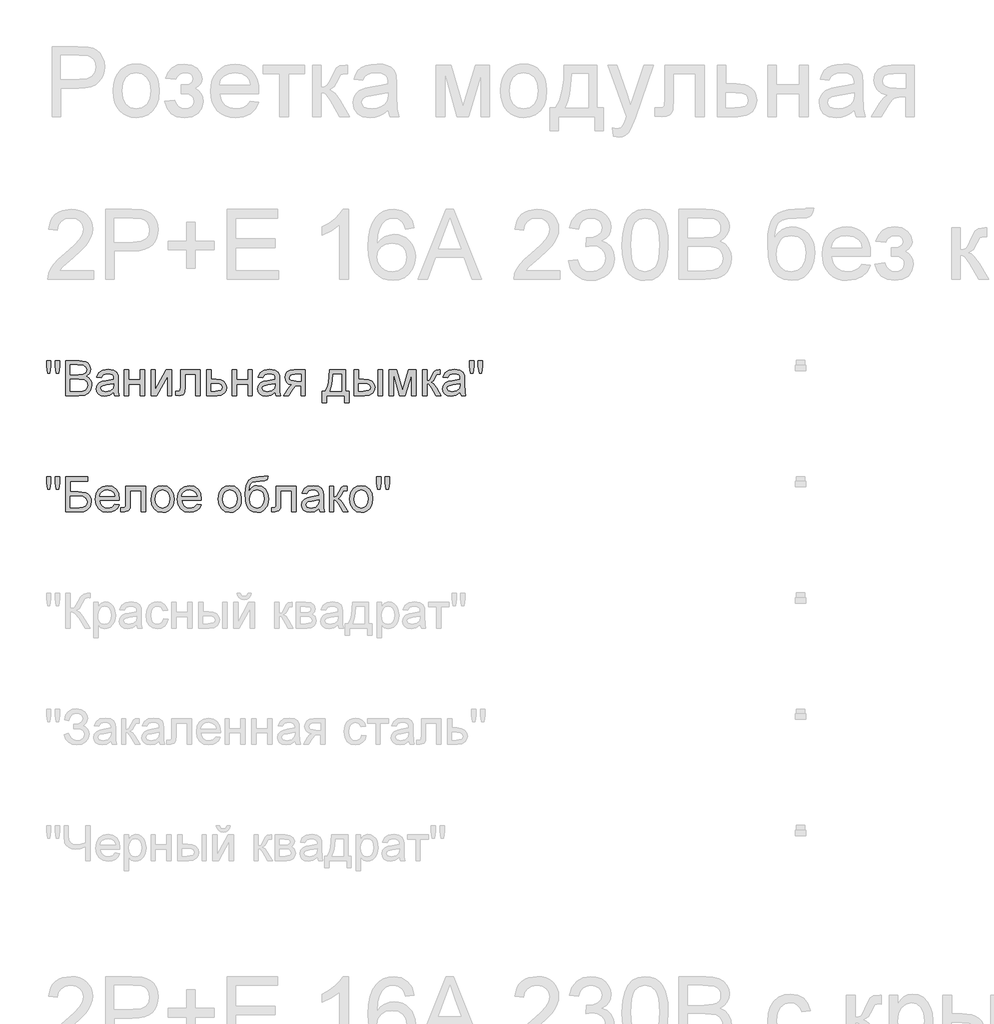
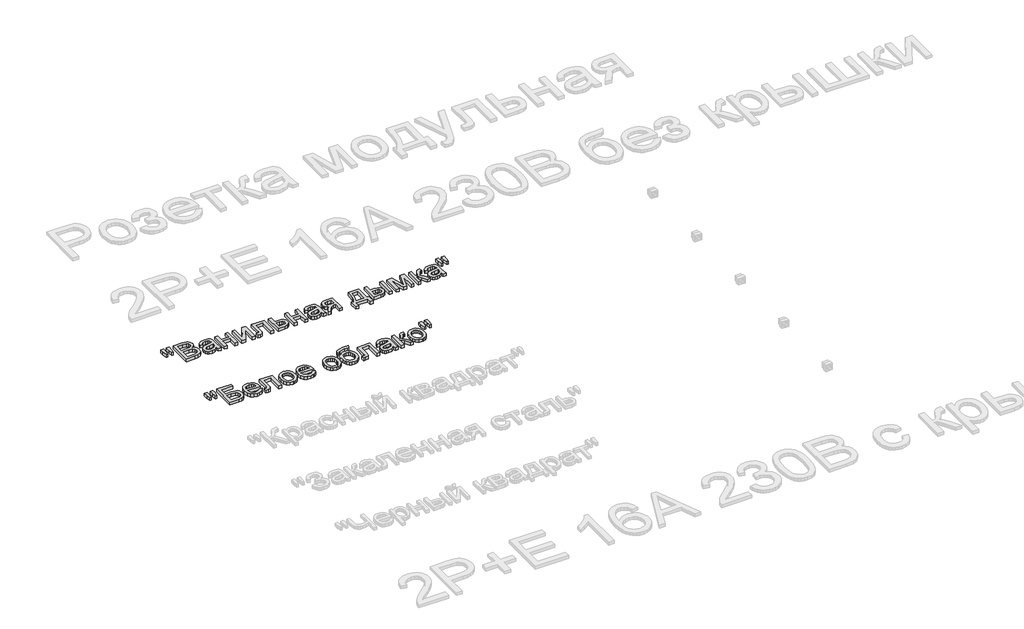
# One storey, part 49 of 168: 2 proxies.
"""IFC4 building model written with IfcOpenShell, lengths in millimetres."""

from ifc_helpers import new_model, si_unit, origin, origin_with_axes, place, context, project, spatial, polyline, outline, extrude, element, save

model = new_model("IFC4")

# Units and contexts
model_context = context("Model", 3, world=origin())
ifc_project = project(units=[si_unit("LENGTHUNIT", "METRE", prefix="MILLI")], contexts=[model_context])

# Site, building, storey
site = spatial("IfcSite", under=ifc_project)
building = spatial("IfcBuilding", under=site)
storey = spatial("IfcBuildingStorey", under=building, Name="Этаж 01", Elevation=0.0)

# Proxies
placement = place(None, origin())
element("IfcBuildingElementProxy", 1, Name="150", ObjectType="150", at=placement, inside=storey, context=model_context, shape_type="SweptSolid", body=[
    extrude(outline(polyline([(41980.1485789, -32070.3300622), (41975.550054, -32041.2305964), (41975.550054, -32016.1778325), (41994.3856121, -32016.1778325), (41994.3856121, -32041.2305964), (41990.2653338, -32070.3300622), (41980.1485789, -32070.3300622)])), origin_with_axes(), (0.0, 0.0, 1.0), 20.0),
    extrude(outline(polyline([(42017.7093306, -32070.3300622), (42013.2211703, -32041.2305964), (42013.2211703, -32016.1778325), (42032.0567284, -32016.1778325), (42032.0567284, -32041.2305964), (42027.6421445, -32070.3300622), (42017.7093306, -32070.3300622)])), origin_with_axes(), (0.0, 0.0, 1.0), 20.0),
    extrude(outline(polyline([(42057.9556209, -32166.8622977), (42057.9556209, -32016.1778325), (42115.4555767, -32016.1778325), (42143.6169435, -32020.6108106), (42153.0807078, -32026.2348066), (42160.2452096, -32034.2408385), (42166.2600803, -32053.517855), (42161.2017028, -32071.1210085), (42145.9162059, -32084.4567308), (42156.5893823, -32090.030143), (42164.4758526, -32098.509823), (42169.3456905, -32109.3347507), (42170.9689698, -32121.9439061), (42166.5359918, -32142.19581), (42155.5547142, -32156.6167842), (42139.1655713, -32164.2687297), (42115.0141183, -32166.8622977), (42057.9556209, -32166.8622977)]), holes=[polyline([(42076.791179, -32077.3933965), (42111.1881456, -32077.3933965), (42131.2745025, -32075.7747157), (42143.3594261, -32068.8033519), (42147.4245221, -32056.5344874), (42143.6353376, -32044.2472287), (42132.7828187, -32036.9815593), (42108.5761834, -32035.0133907), (42076.791179, -32035.0133907), (42076.791179, -32077.3933965)]), polyline([(42076.791179, -32148.0267396), (42115.4187885, -32148.0267396), (42129.3983043, -32147.2909756), (42141.2257105, -32143.1890913), (42149.061597, -32134.819776), (42152.1334117, -32122.1278471), (42148.5281681, -32107.4861437), (42136.8479148, -32098.7489463), (42113.5793786, -32096.2289547), (42076.791179, -32096.2289547), (42076.791179, -32148.0267396)])]), origin_with_axes(), (0.0, 0.0, 1.0), 20.0),
    extrude(outline(polyline([(42265.1467606, -32152.7356291), (42246.8814195, -32165.5011344), (42226.7030921, -32169.2167425), (42210.9623412, -32166.9818594), (42199.3510657, -32160.27721), (42192.1911624, -32150.0960758), (42189.804528, -32137.4317381), (42193.4097715, -32122.5325173), (42202.8827329, -32111.7167867), (42216.0713024, -32105.5363691), (42232.3684748, -32102.7036778), (42265.036396, -32096.2289547), (42265.1467606, -32092.0350999), (42263.8499765, -32083.6289963), (42259.9596244, -32078.1291605), (42251.2592153, -32074.0456704), (42239.1375035, -32072.684507), (42220.0812162, -32076.3081446), (42210.9945309, -32089.1656204), (42192.1589727, -32086.8111756), (42200.3075589, -32068.4170758), (42216.7150959, -32057.6381334), (42241.5655247, -32053.8489488), (42264.3926025, -32057.196675), (42277.2868664, -32065.6027786), (42283.0626137, -32078.3866779), (42283.9823187, -32094.8677913), (42283.9823187, -32118.3018744), (42284.9388119, -32151.0249778), (42288.6912083, -32166.8622977), (42269.8556501, -32166.8622977), (42265.1467606, -32152.7356291)]), holes=[polyline([(42265.1467606, -32115.0645128), (42234.7597078, -32120.8402601), (42218.5545059, -32123.8936807), (42211.2152601, -32128.8600876), (42208.6400861, -32136.1073629), (42214.2502865, -32146.2976942), (42230.7130058, -32150.3811843), (42249.7692932, -32145.8746299), (42262.0565518, -32134.9669288), (42265.036396, -32120.3988017), (42265.1467606, -32115.0645128)])]), origin_with_axes(), (0.0, 0.0, 1.0), 20.0),
    extrude(outline(polyline([(42309.8812112, -32056.2033936), (42328.7167693, -32056.2033936), (42328.7167693, -32098.5833994), (42378.1601095, -32098.5833994), (42378.1601095, -32056.2033936), (42396.9956676, -32056.2033936), (42396.9956676, -32166.8622977), (42378.1601095, -32166.8622977), (42378.1601095, -32117.4189576), (42328.7167693, -32117.4189576), (42328.7167693, -32166.8622977), (42309.8812112, -32166.8622977), (42309.8812112, -32056.2033936)])), origin_with_axes(), (0.0, 0.0, 1.0), 20.0),
    extrude(outline(polyline([(42425.2490049, -32056.2033936), (42444.084563, -32056.2033936), (42444.084563, -32140.5955233), (42490.364118, -32056.2033936), (42514.7179061, -32056.2033936), (42514.7179061, -32166.8622977), (42495.8823479, -32166.8622977), (42495.8823479, -32082.9852028), (42449.8970985, -32166.8622977), (42425.2490049, -32166.8622977), (42425.2490049, -32056.2033936)])), origin_with_axes(), (0.0, 0.0, 1.0), 20.0),
    extrude(outline(polyline([(42552.3890224, -32056.2033936), (42637.1490341, -32056.2033936), (42637.1490341, -32166.7519331), (42618.3134759, -32166.7519331), (42618.3134759, -32075.0389517), (42571.2245806, -32075.0389517), (42571.2245806, -32127.830018), (42569.9553877, -32152.1838061), (42562.9840239, -32162.4661079), (42546.5029105, -32166.8622977), (42531.1990195, -32165.9058045), (42531.1990195, -32148.0267396), (42539.6235172, -32148.0267396), (42548.1399854, -32146.8679113), (42551.5428938, -32143.1890913), (42552.3890224, -32126.7631603), (42552.3890224, -32056.2033936)])), origin_with_axes(), (0.0, 0.0, 1.0), 20.0),
    extrude(outline(polyline([(42665.4023713, -32056.2033936), (42684.2379295, -32056.2033936), (42684.2379295, -32096.2289547), (42705.9429672, -32096.2289547), (42724.7601312, -32098.587998), (42738.6844648, -32105.6651278), (42747.2929034, -32116.8901272), (42750.162383, -32131.692779), (42747.7205663, -32145.1710556), (42740.395116, -32156.5432078), (42727.6985887, -32164.2825252), (42709.1435405, -32166.8622977), (42665.4023713, -32166.8622977), (42665.4023713, -32056.2033936)]), holes=[polyline([(42684.2379295, -32148.0267396), (42701.8226888, -32148.0267396), (42724.539402, -32144.0720081), (42729.6299692, -32139.0090322), (42731.3268249, -32131.7295672), (42726.3052356, -32120.1412843), (42718.2348244, -32116.3337057), (42704.066769, -32115.0645128), (42684.2379295, -32115.0645128), (42684.2379295, -32148.0267396)])]), origin_with_axes(), (0.0, 0.0, 1.0), 20.0),
    extrude(outline(polyline([(42773.7068307, -32056.2033936), (42792.5423889, -32056.2033936), (42792.5423889, -32098.5833994), (42841.985729, -32098.5833994), (42841.985729, -32056.2033936), (42860.8212872, -32056.2033936), (42860.8212872, -32166.8622977), (42841.985729, -32166.8622977), (42841.985729, -32117.4189576), (42792.5423889, -32117.4189576), (42792.5423889, -32166.8622977), (42773.7068307, -32166.8622977), (42773.7068307, -32056.2033936)])), origin_with_axes(), (0.0, 0.0, 1.0), 20.0),
    extrude(outline(polyline([(42959.7079675, -32152.7356291), (42941.4426264, -32165.5011344), (42921.264299, -32169.2167425), (42905.5235481, -32166.9818594), (42893.9122726, -32160.27721), (42886.7523693, -32150.0960758), (42884.3657349, -32137.4317381), (42887.9709784, -32122.5325173), (42897.4439398, -32111.7167867), (42910.6325093, -32105.5363691), (42926.9296817, -32102.7036778), (42959.5976029, -32096.2289547), (42959.7079675, -32092.0350999), (42958.4111834, -32083.6289963), (42954.5208313, -32078.1291605), (42945.8204221, -32074.0456704), (42933.6987104, -32072.684507), (42914.6424231, -32076.3081446), (42905.5557378, -32089.1656204), (42886.7201796, -32086.8111756), (42894.8687658, -32068.4170758), (42911.2763028, -32057.6381334), (42936.1267316, -32053.8489488), (42958.9538094, -32057.196675), (42971.8480733, -32065.6027786), (42977.6238206, -32078.3866779), (42978.5435256, -32094.8677913), (42978.5435256, -32118.3018744), (42979.5000188, -32151.0249778), (42983.2524152, -32166.8622977), (42964.416857, -32166.8622977), (42959.7079675, -32152.7356291)]), holes=[polyline([(42959.7079675, -32115.0645128), (42929.3209147, -32120.8402601), (42913.1157128, -32123.8936807), (42905.776467, -32128.8600876), (42903.201293, -32136.1073629), (42908.8114934, -32146.2976942), (42925.2742127, -32150.3811843), (42944.3305001, -32145.8746299), (42956.6177587, -32134.9669288), (42959.5976029, -32120.3988017), (42959.7079675, -32115.0645128)])]), origin_with_axes(), (0.0, 0.0, 1.0), 20.0),
    extrude(outline(polyline([(43089.2024298, -32056.2033936), (43089.2024298, -32166.8622977), (43070.3668716, -32166.8622977), (43070.3668716, -32124.4822919), (43060.1029639, -32124.4822919), (43046.1234481, -32126.8735249), (43032.9900609, -32142.949968), (43017.9804755, -32166.8622977), (42996.2018614, -32166.8622977), (43015.1109959, -32136.6223977), (43023.4619172, -32125.7698789), (43031.1506509, -32120.9506247), (43018.2747811, -32117.0050903), (43009.224884, -32109.5094947), (43003.872201, -32099.5398926), (43002.0879733, -32088.172339), (43004.5251915, -32075.278075), (43011.8368462, -32065.0693497), (43023.7654199, -32058.4198826), (43040.0533952, -32056.2033936), (43089.2024298, -32056.2033936)]), holes=[polyline([(43070.3668716, -32075.0389517), (43045.5348369, -32075.0389517), (43032.7095509, -32076.1288021), (43025.4300859, -32079.3983534), (43020.9235315, -32089.6070787), (43022.583599, -32096.7853762), (43027.5638015, -32101.7655787), (43051.0898551, -32105.6467337), (43070.3668716, -32105.6467337), (43070.3668716, -32075.0389517)])]), origin_with_axes(), (0.0, 0.0, 1.0), 20.0),
    extrude(outline(polyline([(43192.7979996, -32056.2033936), (43263.4313427, -32056.2033936), (43263.4313427, -32148.0267396), (43277.5580113, -32148.0267396), (43277.5580113, -32197.4700797), (43258.7224531, -32197.4700797), (43258.7224531, -32166.8622977), (43181.0257758, -32166.8622977), (43181.0257758, -32197.4700797), (43162.1902176, -32197.4700797), (43162.1902176, -32148.0267396), (43173.9624415, -32148.0267396), (43182.5202964, -32132.5619002), (43188.5121744, -32112.1030628), (43192.7979996, -32056.2033936)]), holes=[polyline([(43209.279113, -32075.0389517), (43204.864529, -32117.9523865), (43195.1524444, -32148.0267396), (43244.5957845, -32148.0267396), (43244.5957845, -32075.0389517), (43209.279113, -32075.0389517)])]), origin_with_axes(), (0.0, 0.0, 1.0), 20.0),
    extrude(outline(polyline([(43402.3435841, -32056.2033936), (43421.1791422, -32056.2033936), (43421.1791422, -32166.8622977), (43402.3435841, -32166.8622977), (43402.3435841, -32056.2033936)])), origin_with_axes(), (0.0, 0.0, 1.0), 20.0),
    extrude(outline(polyline([(43298.7480142, -32056.2033936), (43317.5835724, -32056.2033936), (43317.5835724, -32096.2289547), (43340.8705027, -32096.2289547), (43360.9982463, -32098.587998), (43375.9112627, -32105.6651278), (43385.1405023, -32116.8901272), (43388.2169154, -32131.692779), (43385.637143, -32145.1710556), (43377.8978255, -32156.5432078), (43364.4931253, -32164.2825252), (43344.9172046, -32166.8622977), (43298.7480142, -32166.8622977), (43298.7480142, -32056.2033936)]), holes=[polyline([(43317.5835724, -32148.0267396), (43336.9341653, -32148.0267396), (43361.9133528, -32144.0720081), (43367.5143562, -32139.0090322), (43369.3813573, -32131.7295672), (43363.8447333, -32120.1412843), (43354.9649816, -32116.3337057), (43339.3989747, -32115.0645128), (43317.5835724, -32115.0645128), (43317.5835724, -32148.0267396)])]), origin_with_axes(), (0.0, 0.0, 1.0), 20.0),
    extrude(outline(polyline([(43449.4324794, -32056.2033936), (43481.8428832, -32056.2033936), (43506.8220707, -32144.789378), (43533.7510327, -32056.2033936), (43564.8002731, -32056.2033936), (43564.8002731, -32166.8622977), (43545.964715, -32166.8622977), (43545.964715, -32077.7612785), (43518.8886001, -32166.8622977), (43494.1669301, -32166.8622977), (43468.2680376, -32073.4938474), (43468.2680376, -32166.8622977), (43449.4324794, -32166.8622977), (43449.4324794, -32056.2033936)])), origin_with_axes(), (0.0, 0.0, 1.0), 20.0),
    extrude(outline(polyline([(43593.0536104, -32056.2033936), (43611.8891685, -32056.2033936), (43611.8891685, -32103.292289), (43624.5075209, -32099.9077746), (43634.845005, -32080.1892997), (43643.4350496, -32063.1747574), (43651.0134187, -32057.6381334), (43664.7905994, -32056.2033936), (43668.395843, -32056.2033936), (43668.395843, -32075.1493163), (43663.3190714, -32075.0389517), (43654.1220216, -32077.0255145), (43647.6472984, -32089.4231377), (43640.0505352, -32102.8324365), (43629.4003515, -32109.3991301), (43641.2829399, -32116.7291788), (43652.9447992, -32132.1710256), (43673.1047325, -32166.8622977), (43651.6940004, -32166.8622977), (43631.9387372, -32132.9067896), (43622.0059234, -32118.5409977), (43611.8891685, -32115.0645128), (43611.8891685, -32166.8622977), (43593.0536104, -32166.8622977), (43593.0536104, -32056.2033936)])), origin_with_axes(), (0.0, 0.0, 1.0), 20.0),
    extrude(outline(polyline([(43755.5102994, -32152.7356291), (43737.2449584, -32165.5011344), (43717.0666309, -32169.2167425), (43701.3258801, -32166.9818594), (43689.7146046, -32160.27721), (43682.5547013, -32150.0960758), (43680.1680668, -32137.4317381), (43683.7733104, -32122.5325173), (43693.2462717, -32111.7167867), (43706.4348413, -32105.5363691), (43722.7320137, -32102.7036778), (43755.3999348, -32096.2289547), (43755.5102994, -32092.0350999), (43754.2135154, -32083.6289963), (43750.3231633, -32078.1291605), (43741.6227541, -32074.0456704), (43729.5010424, -32072.684507), (43710.444755, -32076.3081446), (43701.3580697, -32089.1656204), (43682.5225116, -32086.8111756), (43690.6710978, -32068.4170758), (43707.0786348, -32057.6381334), (43731.9290635, -32053.8489488), (43754.7561413, -32057.196675), (43767.6504053, -32065.6027786), (43773.4261526, -32078.3866779), (43774.3458576, -32094.8677913), (43774.3458576, -32118.3018744), (43775.3023508, -32151.0249778), (43779.0547471, -32166.8622977), (43760.219189, -32166.8622977), (43755.5102994, -32152.7356291)]), holes=[polyline([(43755.5102994, -32115.0645128), (43725.1232466, -32120.8402601), (43708.9180447, -32123.8936807), (43701.5787989, -32128.8600876), (43699.003625, -32136.1073629), (43704.6138254, -32146.2976942), (43721.0765447, -32150.3811843), (43740.132832, -32145.8746299), (43752.4200907, -32134.9669288), (43755.3999348, -32120.3988017), (43755.5102994, -32115.0645128)])]), origin_with_axes(), (0.0, 0.0, 1.0), 20.0),
    extrude(outline(polyline([(43800.1343854, -32070.3300622), (43795.5358605, -32041.2305964), (43795.5358605, -32016.1778325), (43814.3714187, -32016.1778325), (43814.3714187, -32041.2305964), (43810.2511403, -32070.3300622), (43800.1343854, -32070.3300622)])), origin_with_axes(), (0.0, 0.0, 1.0), 20.0),
    extrude(outline(polyline([(43837.6951372, -32070.3300622), (43833.2069768, -32041.2305964), (43833.2069768, -32016.1778325), (43852.042535, -32016.1778325), (43852.042535, -32041.2305964), (43847.627951, -32070.3300622), (43837.6951372, -32070.3300622)])), origin_with_axes(), (0.0, 0.0, 1.0), 20.0),
])
element("IfcBuildingElementProxy", 2, Name="150", ObjectType="150", at=placement, inside=storey, context=model_context, shape_type="SweptSolid", body=[
    extrude(outline(polyline([(41980.1485789, -32570.3300622), (41975.550054, -32541.2305964), (41975.550054, -32516.1778325), (41994.3856121, -32516.1778325), (41994.3856121, -32541.2305964), (41990.2653338, -32570.3300622), (41980.1485789, -32570.3300622)])), origin_with_axes(), (0.0, 0.0, 1.0), 20.0),
    extrude(outline(polyline([(42017.7093306, -32570.3300622), (42013.2211703, -32541.2305964), (42013.2211703, -32516.1778325), (42032.0567284, -32516.1778325), (42032.0567284, -32541.2305964), (42027.6421445, -32570.3300622), (42017.7093306, -32570.3300622)])), origin_with_axes(), (0.0, 0.0, 1.0), 20.0),
    extrude(outline(polyline([(42057.9556209, -32516.1778325), (42152.1334117, -32516.1778325), (42152.1334117, -32535.0133907), (42076.791179, -32535.0133907), (42076.791179, -32579.7478413), (42112.0710624, -32579.7478413), (42143.157091, -32583.573814), (42153.5589544, -32589.101241), (42161.6615553, -32598.0315764), (42166.8762826, -32609.5278888), (42168.614525, -32622.7532465), (42163.6665122, -32644.2191609), (42148.8960501, -32660.5347274), (42135.6247071, -32665.2804052), (42115.4555767, -32666.8622977), (42057.9556209, -32666.8622977), (42057.9556209, -32516.1778325)]), holes=[polyline([(42076.791179, -32648.0267396), (42117.1478339, -32648.0267396), (42131.4124583, -32646.4724382), (42141.6119866, -32641.8095339), (42147.7372218, -32634.0380267), (42149.7789669, -32623.1579167), (42145.1068655, -32608.4058487), (42132.102237, -32600.533174), (42103.7201411, -32598.5833994), (42076.791179, -32598.5833994), (42076.791179, -32648.0267396)])]), origin_with_axes(), (0.0, 0.0, 1.0), 20.0),
    extrude(outline(polyline([(42269.6349209, -32633.900071), (42288.1025971, -32636.2545157), (42281.4485315, -32650.1696522), (42270.8305374, -32660.5715156), (42256.4877381, -32667.0554358), (42238.6592569, -32669.2167425), (42216.5587461, -32665.4873388), (42199.5534008, -32654.2991276), (42188.710079, -32636.3786759), (42185.0956384, -32612.4525506), (42188.7468672, -32587.7216835), (42199.7005536, -32569.2264162), (42216.4759726, -32557.6933157), (42237.5923991, -32553.8489488), (42258.0512366, -32557.6841186), (42274.3989927, -32569.189628), (42285.1181544, -32587.6481071), (42288.6912083, -32612.342186), (42288.5808437, -32617.4189576), (42203.9311966, -32617.4189576), (42207.1915508, -32631.518035), (42214.7653213, -32641.8831103), (42225.6960151, -32648.2566658), (42239.0271389, -32650.3811843), (42257.4948151, -32646.444847), (42269.6349209, -32633.900071)]), holes=[polyline([(42203.9311966, -32598.5833994), (42269.8556501, -32598.5833994), (42267.3080673, -32588.6321915), (42262.3140692, -32581.5136749), (42251.3327917, -32574.8917989), (42237.5188227, -32572.684507), (42224.8222954, -32574.445742), (42214.3238629, -32579.7294472), (42207.0260039, -32587.9654053), (42203.9311966, -32598.5833994)])]), origin_with_axes(), (0.0, 0.0, 1.0), 20.0),
    extrude(outline(polyline([(42316.9445455, -32556.2033936), (42401.7045572, -32556.2033936), (42401.7045572, -32666.7519331), (42382.868999, -32666.7519331), (42382.868999, -32575.0389517), (42335.7801036, -32575.0389517), (42335.7801036, -32627.830018), (42334.5109108, -32652.1838061), (42327.539547, -32662.4661079), (42311.0584336, -32666.8622977), (42295.7545426, -32665.9058045), (42295.7545426, -32648.0267396), (42304.1790403, -32648.0267396), (42312.6955084, -32646.8679113), (42316.0984169, -32643.1890913), (42316.9445455, -32626.7631603), (42316.9445455, -32556.2033936)])), origin_with_axes(), (0.0, 0.0, 1.0), 20.0),
    extrude(outline(polyline([(42425.2490049, -32611.5328457), (42429.323298, -32584.852204), (42441.5461773, -32566.0994193), (42456.6477332, -32556.9115664), (42474.7291332, -32553.8489488), (42494.516586, -32557.5783525), (42510.3217163, -32568.7665637), (42520.6821929, -32586.5306656), (42524.1356852, -32609.9877413), (42522.6089749, -32629.0164375), (42518.0288441, -32643.501791), (42510.5286499, -32654.3497114), (42500.2417496, -32662.4661079), (42488.0234688, -32667.5290839), (42474.7291332, -32669.2167425), (42454.7025571, -32665.5011344), (42438.915821, -32654.3543099), (42428.6657089, -32636.2177275), (42425.2490049, -32611.5328457)]), holes=[polyline([(42444.084563, -32611.4960575), (42446.2642638, -32628.5427894), (42452.8033663, -32640.6874938), (42462.6442097, -32647.9577617), (42474.7291332, -32650.3811843), (42486.7588745, -32647.9439661), (42496.5813237, -32640.6323115), (42503.1204262, -32628.3266587), (42505.300127, -32610.9074463), (42503.1066306, -32594.357355), (42496.5261414, -32582.3781975), (42486.6898966, -32575.1079296), (42474.7291332, -32572.684507), (42462.6442097, -32575.0987326), (42452.8033663, -32582.3414093), (42446.2642638, -32594.4585226), (42444.084563, -32611.4960575)])]), origin_with_axes(), (0.0, 0.0, 1.0), 20.0),
    extrude(outline(polyline([(42622.8016363, -32633.900071), (42641.2693124, -32636.2545157), (42634.6152469, -32650.1696522), (42623.9972528, -32660.5715156), (42609.6544535, -32667.0554358), (42591.8259723, -32669.2167425), (42569.7254614, -32665.4873388), (42552.7201162, -32654.2991276), (42541.8767944, -32636.3786759), (42538.2623538, -32612.4525506), (42541.9135826, -32587.7216835), (42552.867269, -32569.2264162), (42569.642688, -32557.6933157), (42590.7591145, -32553.8489488), (42611.217952, -32557.6841186), (42627.5657081, -32569.189628), (42638.2848698, -32587.6481071), (42641.8579236, -32612.342186), (42641.747559, -32617.4189576), (42557.0979119, -32617.4189576), (42560.3582661, -32631.518035), (42567.9320367, -32641.8831103), (42578.8627305, -32648.2566658), (42592.1938543, -32650.3811843), (42610.6615304, -32646.444847), (42622.8016363, -32633.900071)]), holes=[polyline([(42557.0979119, -32598.5833994), (42623.0223655, -32598.5833994), (42620.4747827, -32588.6321915), (42615.4807846, -32581.5136749), (42604.499507, -32574.8917989), (42590.6855381, -32572.684507), (42577.9890107, -32574.445742), (42567.4905783, -32579.7294472), (42560.1927192, -32587.9654053), (42557.0979119, -32598.5833994)])]), origin_with_axes(), (0.0, 0.0, 1.0), 20.0),
    extrude(outline(polyline([(42714.8457115, -32611.5328457), (42718.9200046, -32584.852204), (42731.1428839, -32566.0994193), (42746.2444398, -32556.9115664), (42764.3258398, -32553.8489488), (42784.1132926, -32557.5783525), (42799.9184229, -32568.7665637), (42810.2788995, -32586.5306656), (42813.7323918, -32609.9877413), (42812.2056815, -32629.0164375), (42807.6255507, -32643.501791), (42800.1253565, -32654.3497114), (42789.8384562, -32662.4661079), (42777.6201754, -32667.5290839), (42764.3258398, -32669.2167425), (42744.2992637, -32665.5011344), (42728.5125276, -32654.3543099), (42718.2624155, -32636.2177275), (42714.8457115, -32611.5328457)]), holes=[polyline([(42733.6812696, -32611.4960575), (42735.8609704, -32628.5427894), (42742.4000729, -32640.6874938), (42752.2409163, -32647.9577617), (42764.3258398, -32650.3811843), (42776.3555811, -32647.9439661), (42786.1780303, -32640.6323115), (42792.7171328, -32628.3266587), (42794.8968336, -32610.9074463), (42792.7033372, -32594.357355), (42786.122848, -32582.3781975), (42776.2866032, -32575.1079296), (42764.3258398, -32572.684507), (42752.2409163, -32575.0987326), (42742.4000729, -32582.3414093), (42735.8609704, -32594.4585226), (42733.6812696, -32611.4960575)])]), origin_with_axes(), (0.0, 0.0, 1.0), 20.0),
    extrude(outline(polyline([(42912.6190721, -32513.8233877), (42929.1001855, -32513.8233877), (42924.2441431, -32528.5202734), (42914.6424231, -32533.8361683), (42891.576222, -32535.0133907), (42860.5085875, -32539.3543982), (42853.3808738, -32545.0013868), (42848.5892108, -32553.2603376), (42844.560903, -32577.8716431), (42860.8764695, -32559.8454253), (42870.7954878, -32555.3480679), (42881.9009255, -32553.8489488), (42901.4998388, -32557.661126), (42917.401538, -32569.0976575), (42927.9413572, -32587.0365033), (42931.4546302, -32610.3556233), (42929.7117893, -32628.3358558), (42924.4832664, -32642.766027), (42907.9469707, -32662.3189551), (42896.6529935, -32667.4922957), (42881.9009255, -32669.2167425), (42864.9001788, -32666.995655), (42852.1576662, -32660.3323923), (42842.7812738, -32650.2064404), (42835.8788879, -32637.597285), (42831.6298508, -32618.6099755), (42830.2135052, -32589.3495614), (42833.786559, -32553.2097538), (42844.5057207, -32531.1690238), (42862.6377045, -32519.9256303), (42888.449225, -32516.1778325), (42909.4184987, -32515.7547682), (42912.6190721, -32513.8233877)]), holes=[polyline([(42912.6190721, -32609.7670121), (42910.577327, -32594.9459662), (42904.4520918, -32583.0771733), (42894.6112484, -32575.2826736), (42881.4226789, -32572.684507), (42867.6730893, -32575.4298264), (42857.473561, -32583.6657845), (42851.1551877, -32596.4910706), (42849.0490633, -32613.0043736), (42851.3759169, -32629.011839), (42858.3564778, -32640.7610702), (42868.7491442, -32647.9761558), (42881.3123143, -32650.3811843), (42893.9398638, -32647.5990768), (42903.937057, -32639.252754), (42910.4485683, -32626.3171033), (42912.6190721, -32609.7670121)])]), origin_with_axes(), (0.0, 0.0, 1.0), 20.0),
    extrude(outline(polyline([(42964.416857, -32556.2033936), (43049.1768687, -32556.2033936), (43049.1768687, -32666.7519331), (43030.3413105, -32666.7519331), (43030.3413105, -32575.0389517), (42983.2524152, -32575.0389517), (42983.2524152, -32627.830018), (42981.9832223, -32652.1838061), (42975.0118585, -32662.4661079), (42958.5307451, -32666.8622977), (42943.2268541, -32665.9058045), (42943.2268541, -32648.0267396), (42951.6513518, -32648.0267396), (42960.16782, -32646.8679113), (42963.5707284, -32643.1890913), (42964.416857, -32626.7631603), (42964.416857, -32556.2033936)])), origin_with_axes(), (0.0, 0.0, 1.0), 20.0),
    extrude(outline(polyline([(43148.063549, -32652.7356291), (43129.7982079, -32665.5011344), (43109.6198805, -32669.2167425), (43093.8791296, -32666.9818594), (43082.2678542, -32660.27721), (43075.1079508, -32650.0960758), (43072.7213164, -32637.4317381), (43076.3265599, -32622.5325173), (43085.7995213, -32611.7167867), (43098.9880908, -32605.5363691), (43115.2852632, -32602.7036778), (43147.9531844, -32596.2289547), (43148.063549, -32592.0350999), (43146.766765, -32583.6289963), (43142.8764129, -32578.1291605), (43134.1760037, -32574.0456704), (43122.0542919, -32572.684507), (43102.9980046, -32576.3081446), (43093.9113193, -32589.1656204), (43075.0757612, -32586.8111756), (43083.2243473, -32568.4170758), (43099.6318843, -32557.6381334), (43124.4823131, -32553.8489488), (43147.3093909, -32557.196675), (43160.2036548, -32565.6027786), (43165.9794022, -32578.3866779), (43166.8991071, -32594.8677913), (43166.8991071, -32618.3018744), (43167.8556003, -32651.0249778), (43171.6079967, -32666.8622977), (43152.7724385, -32666.8622977), (43148.063549, -32652.7356291)]), holes=[polyline([(43148.063549, -32615.0645128), (43117.6764962, -32620.8402601), (43101.4712943, -32623.8936807), (43094.1320485, -32628.8600876), (43091.5568745, -32636.1073629), (43097.167075, -32646.2976942), (43113.6297942, -32650.3811843), (43132.6860816, -32645.8746299), (43144.9733402, -32634.9669288), (43147.9531844, -32620.3988017), (43148.063549, -32615.0645128)])]), origin_with_axes(), (0.0, 0.0, 1.0), 20.0),
    extrude(outline(polyline([(43192.7979996, -32556.2033936), (43211.6335578, -32556.2033936), (43211.6335578, -32603.292289), (43224.2519102, -32599.9077746), (43234.5893943, -32580.1892997), (43243.1794388, -32563.1747574), (43250.7578079, -32557.6381334), (43264.5349887, -32556.2033936), (43268.1402322, -32556.2033936), (43268.1402322, -32575.1493163), (43263.0634607, -32575.0389517), (43253.8664108, -32577.0255145), (43247.3916877, -32589.4231377), (43239.7949245, -32602.8324365), (43229.1447407, -32609.3991301), (43241.0273292, -32616.7291788), (43252.6891884, -32632.1710256), (43272.8491218, -32666.8622977), (43251.4383896, -32666.8622977), (43231.6831265, -32632.9067896), (43221.7503126, -32618.5409977), (43211.6335578, -32615.0645128), (43211.6335578, -32666.8622977), (43192.7979996, -32666.8622977), (43192.7979996, -32556.2033936)])), origin_with_axes(), (0.0, 0.0, 1.0), 20.0),
    extrude(outline(polyline([(43279.9124561, -32611.5328457), (43283.9867492, -32584.852204), (43296.2096285, -32566.0994193), (43311.3111844, -32556.9115664), (43329.3925844, -32553.8489488), (43349.1800372, -32557.5783525), (43364.9851674, -32568.7665637), (43375.3456441, -32586.5306656), (43378.7991364, -32609.9877413), (43377.2724261, -32629.0164375), (43372.6922952, -32643.501791), (43365.1921011, -32654.3497114), (43354.9052008, -32662.4661079), (43342.68692, -32667.5290839), (43329.3925844, -32669.2167425), (43309.3660083, -32665.5011344), (43293.5792722, -32654.3543099), (43283.3291601, -32636.2177275), (43279.9124561, -32611.5328457)]), holes=[polyline([(43298.7480142, -32611.4960575), (43300.927715, -32628.5427894), (43307.4668175, -32640.6874938), (43317.3076609, -32647.9577617), (43329.3925844, -32650.3811843), (43341.4223257, -32647.9439661), (43351.2447749, -32640.6323115), (43357.7838774, -32628.3266587), (43359.9635782, -32610.9074463), (43357.7700818, -32594.357355), (43351.1895926, -32582.3781975), (43341.3533478, -32575.1079296), (43329.3925844, -32572.684507), (43317.3076609, -32575.0987326), (43307.4668175, -32582.3414093), (43300.927715, -32594.4585226), (43298.7480142, -32611.4960575)])]), origin_with_axes(), (0.0, 0.0, 1.0), 20.0),
    extrude(outline(polyline([(43399.8787747, -32570.3300622), (43395.2802498, -32541.2305964), (43395.2802498, -32516.1778325), (43414.1158079, -32516.1778325), (43414.1158079, -32541.2305964), (43409.9955296, -32570.3300622), (43399.8787747, -32570.3300622)])), origin_with_axes(), (0.0, 0.0, 1.0), 20.0),
    extrude(outline(polyline([(43437.4395264, -32570.3300622), (43432.9513661, -32541.2305964), (43432.9513661, -32516.1778325), (43451.7869242, -32516.1778325), (43451.7869242, -32541.2305964), (43447.3723403, -32570.3300622), (43437.4395264, -32570.3300622)])), origin_with_axes(), (0.0, 0.0, 1.0), 20.0),
])

save(model, "model.ifc")
